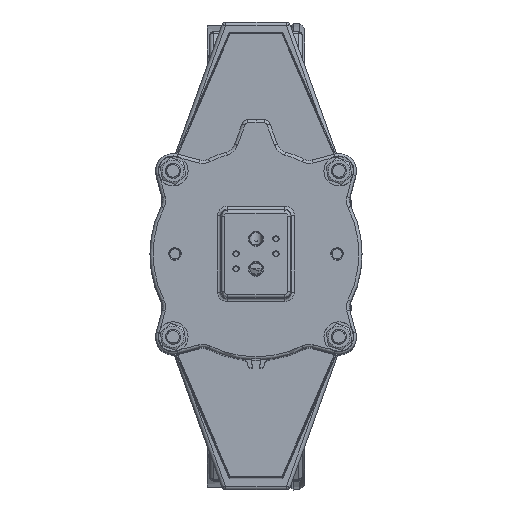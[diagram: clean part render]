
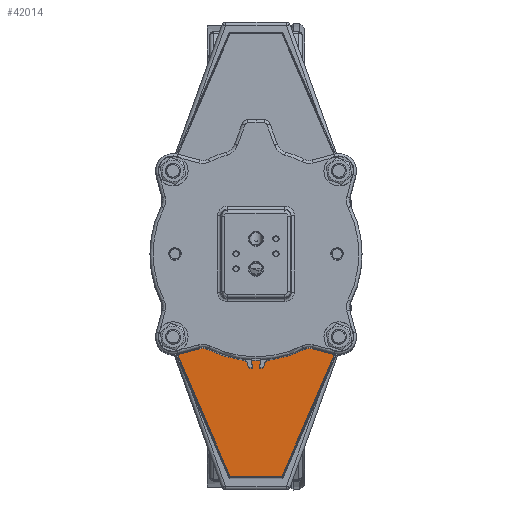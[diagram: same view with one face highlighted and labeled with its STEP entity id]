
A CAD part, top view. The second image highlights one B-rep face of the part: STEP entity #42014.
In plain terms, the highlighted planar face has unit normal (0, 0, 1).
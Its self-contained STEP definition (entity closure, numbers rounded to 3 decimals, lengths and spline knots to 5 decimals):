
#4313=LINE('',#70323,#6907);
#4317=LINE('',#70365,#6911);
#4318=LINE('',#70367,#6912);
#4319=LINE('',#70369,#6913);
#4320=LINE('',#70371,#6914);
#4321=LINE('',#70372,#6915);
#6907=VECTOR('',#53414,0.04158);
#6911=VECTOR('',#53420,0.11683);
#6912=VECTOR('',#53421,0.01);
#6913=VECTOR('',#53422,0.134);
#6914=VECTOR('',#53423,0.01);
#6915=VECTOR('',#53424,0.11683);
#8791=PLANE('',#45540);
#10326=FACE_OUTER_BOUND('',#12946,.T.);
#12946=EDGE_LOOP('',(#32432,#32433,#32434,#32435,#32436,#32437));
#18768=VERTEX_POINT('',#70311);
#18769=VERTEX_POINT('',#70322);
#18772=VERTEX_POINT('',#70364);
#18773=VERTEX_POINT('',#70366);
#18774=VERTEX_POINT('',#70368);
#18775=VERTEX_POINT('',#70370);
#23755=EDGE_CURVE('',#18768,#18769,#4313,.T.);
#23760=EDGE_CURVE('',#18772,#18768,#4317,.T.);
#23761=EDGE_CURVE('',#18773,#18772,#4318,.T.);
#23762=EDGE_CURVE('',#18774,#18773,#4319,.T.);
#23763=EDGE_CURVE('',#18774,#18775,#4320,.T.);
#23764=EDGE_CURVE('',#18775,#18769,#4321,.T.);
#32432=ORIENTED_EDGE('',*,*,#23755,.F.);
#32433=ORIENTED_EDGE('',*,*,#23760,.F.);
#32434=ORIENTED_EDGE('',*,*,#23761,.F.);
#32435=ORIENTED_EDGE('',*,*,#23762,.F.);
#32436=ORIENTED_EDGE('',*,*,#23763,.T.);
#32437=ORIENTED_EDGE('',*,*,#23764,.T.);
#42014=ADVANCED_FACE('',(#10326),#8791,.T.);
#45540=AXIS2_PLACEMENT_3D('',#70363,#53418,#53419);
#53414=DIRECTION('',(-1.,0.,0.));
#53418=DIRECTION('center_axis',(0.,0.,
1.));
#53419=DIRECTION('ref_axis',(1.,0.,0.));
#53420=DIRECTION('',(-0.396,-0.918,0.));
#53421=DIRECTION('',(0.,-1.,0.));
#53422=DIRECTION('',(1.,0.,0.));
#53423=DIRECTION('',(0.,-1.,0.));
#53424=DIRECTION('',(0.396,-0.918,0.));
#70311=CARTESIAN_POINT('',(0.02079,-0.17724,0.7397));
#70322=CARTESIAN_POINT('',(-0.02079,-0.17724,0.7397));
#70323=CARTESIAN_POINT('',(0.02079,-0.17724,0.7397));
#70363=CARTESIAN_POINT('Origin',(0.02482,-0.11084,
0.7397));
#70364=CARTESIAN_POINT('',(0.067,-0.06994,0.7397));
#70365=CARTESIAN_POINT('',(0.067,-0.06994,0.7397));
#70366=CARTESIAN_POINT('',(0.067,-0.05994,0.7397));
#70367=CARTESIAN_POINT('',(0.067,-0.05994,0.7397));
#70368=CARTESIAN_POINT('',(-0.067,-0.05994,0.7397));
#70369=CARTESIAN_POINT('',(-0.067,-0.05994,0.7397));
#70370=CARTESIAN_POINT('',(-0.067,-0.06994,0.7397));
#70371=CARTESIAN_POINT('',(-0.067,-0.05994,0.7397));
#70372=CARTESIAN_POINT('',(-0.067,-0.06994,0.7397));
